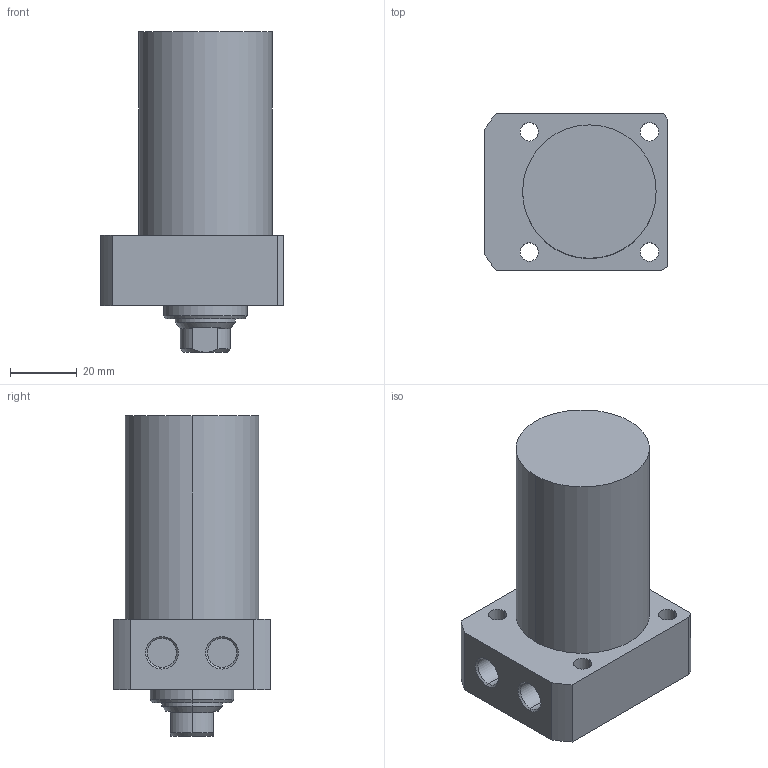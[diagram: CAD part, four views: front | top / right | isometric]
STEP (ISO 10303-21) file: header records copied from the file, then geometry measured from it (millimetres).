
FILE_DESCRIPTION (( 'STEP AP203' ), '1' );
FILE_NAME ('CLL-R040-CA-050.STEP', '2017-05-10T11:52:00', ( '' ), ( '' ), 'SwSTEP 2.0', 'SolidWorks 2015', '' );
FILE_SCHEMA (( 'CONFIG_CONTROL_DESIGN' ));
Length unit declared in the file: millimetre
Products named in the file (1): CLL-R040-CA-050
Bounding box: 55 x 47 x 96 mm (x, y, z)
Volume: 129719.2 mm3; surface area: 20129.5 mm2
Topology: 1 solids, 1 shells, 63 faces, 147 edges, 92 vertices
Faces by surface type: cylinder 29, plane 19, cone 15
Entity records: 1913 total; most frequent: DIRECTION 338, CARTESIAN_POINT 337, ORIENTED_EDGE 290, EDGE_CURVE 145, AXIS2_PLACEMENT_3D 137, VERTEX_POINT 92, EDGE_LOOP 79, CIRCLE 73
